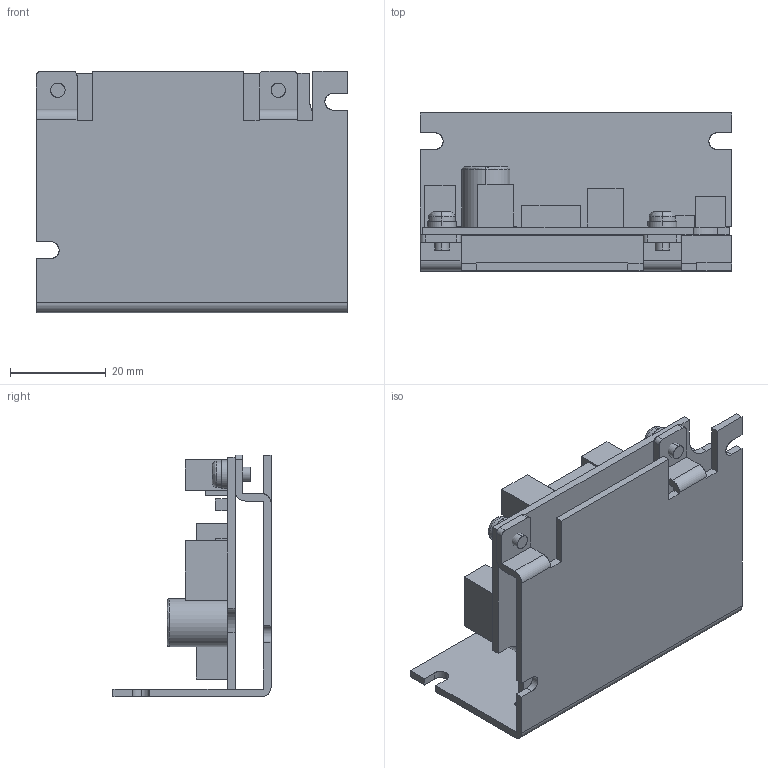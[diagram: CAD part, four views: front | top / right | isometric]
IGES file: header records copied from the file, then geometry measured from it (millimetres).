
Start section: SolidWorks IGES file using analytic representation for surfaces
Global section: file name: \\MCADserv\kari\7666\PDSB-BA\part\PDSB-BA_3D.IGS; native system: SolidWorks 2014; preprocessor: SolidWorks 2014; author: 7666; date: 190125.105914; units: millimetre
Bounding box: 65 x 33 x 50.5 mm (x, y, z)
Surface area: 19205.1 mm2 (no closed solid volume)
Topology: 0 solids, 0 shells, 154 faces, 1687 edges, 1687 vertices
Faces by surface type: bspline 114, revolution 40
